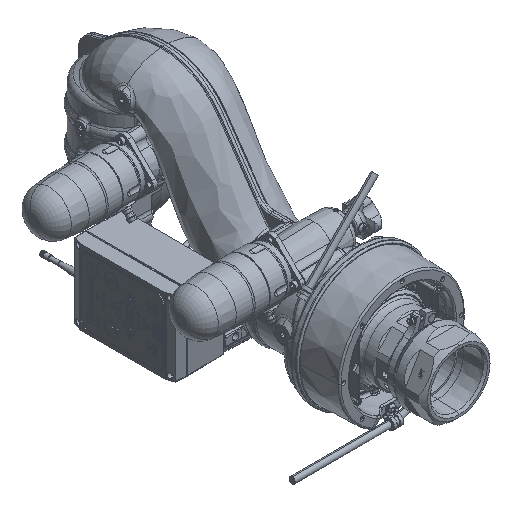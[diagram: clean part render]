
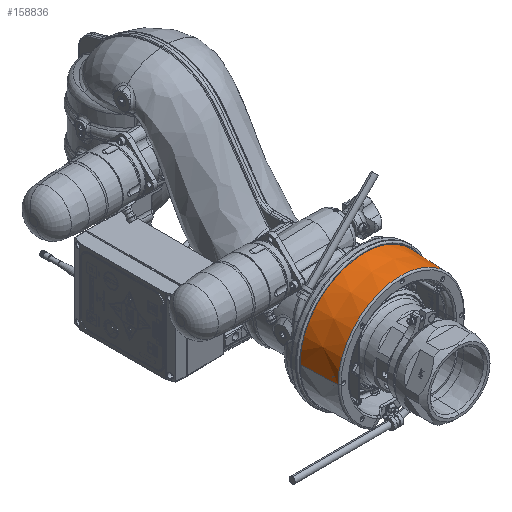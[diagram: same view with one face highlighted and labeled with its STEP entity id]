
A CAD part, isometric view. The second image highlights one B-rep face of the part: STEP entity #158836.
In plain terms, the highlighted conical face has half-angle 2 degrees and reference radius 98.641 mm.
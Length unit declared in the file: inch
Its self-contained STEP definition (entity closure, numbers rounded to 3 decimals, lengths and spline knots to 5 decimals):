
#2751 = ORIENTED_EDGE ( 'NONE', *, *, #130721, .T. ) ;
#8968 = CARTESIAN_POINT ( 'NONE',  ( 0., -7.22255, 0. ) ) ;
#24061 = VERTEX_POINT ( 'NONE', #77154 ) ;
#37660 = AXIS2_PLACEMENT_3D ( 'NONE', #161064, #127696, #193690 ) ;
#39140 = VERTEX_POINT ( 'NONE', #188289 ) ;
#41998 = ORIENTED_EDGE ( 'NONE', *, *, #161582, .T. ) ;
#48620 = LINE ( 'NONE', #72987, #173398 ) ;
#49453 = EDGE_LOOP ( 'NONE', ( #2751, #41998, #183282, #76340 ) ) ;
#70821 = VERTEX_POINT ( 'NONE', #201510 ) ;
#71768 = FACE_OUTER_BOUND ( 'NONE', #49453, .T. ) ;
#72987 = CARTESIAN_POINT ( 'NONE',  ( -3.88351, -7.22255, 0. ) ) ;
#73694 = DIRECTION ( 'NONE',  ( -0.035, 0.999, 0. ) ) ;
#76340 = ORIENTED_EDGE ( 'NONE', *, *, #127626, .F. ) ;
#77154 = CARTESIAN_POINT ( 'NONE',  ( 3.88667, -7.13207, 0. ) ) ;
#78825 = VERTEX_POINT ( 'NONE', #203673 ) ;
#92474 = DIRECTION ( 'NONE',  ( -1., 0., 0. ) ) ;
#98383 = DIRECTION ( 'NONE',  ( 0.035, 0.999, 0. ) ) ;
#99694 = CARTESIAN_POINT ( 'NONE',  ( 0., -7.13207, 0. ) ) ;
#103103 = AXIS2_PLACEMENT_3D ( 'NONE', #8968, #156397, #92474 ) ;
#107963 = CONICAL_SURFACE ( 'NONE', #103103, 3.88351, 0.035 ) ;
#112905 = CARTESIAN_POINT ( 'NONE',  ( 3.88351, -7.22255, 0. ) ) ;
#120514 = CIRCLE ( 'NONE', #37660, 3.96627 ) ;
#127626 = EDGE_CURVE ( 'NONE', #78825, #39140, #48620, .T. ) ;
#127696 = DIRECTION ( 'NONE',  ( 0., 1., 0. ) ) ;
#130721 = EDGE_CURVE ( 'NONE', #78825, #24061, #173006, .T. ) ;
#156397 = DIRECTION ( 'NONE',  ( 0., 1., 0. ) ) ;
#158836 = ADVANCED_FACE ( 'NONE', ( #71768 ), #107963, .T. ) ;
#161064 = CARTESIAN_POINT ( 'NONE',  ( 0., -4.85255, 0. ) ) ;
#161582 = EDGE_CURVE ( 'NONE', #24061, #70821, #194343, .T. ) ;
#173006 = CIRCLE ( 'NONE', #213835, 3.88667 ) ;
#173398 = VECTOR ( 'NONE', #73694, 39.37008 ) ;
#183282 = ORIENTED_EDGE ( 'NONE', *, *, #198966, .F. ) ;
#186608 = VECTOR ( 'NONE', #98383, 39.37008 ) ;
#188289 = CARTESIAN_POINT ( 'NONE',  ( -3.96627, -4.85255, 0. ) ) ;
#193690 = DIRECTION ( 'NONE',  ( -1., 0., 0. ) ) ;
#194343 = LINE ( 'NONE', #112905, #186608 ) ;
#198966 = EDGE_CURVE ( 'NONE', #39140, #70821, #120514, .T. ) ;
#201510 = CARTESIAN_POINT ( 'NONE',  ( 3.96627, -4.85255, 0. ) ) ;
#203673 = CARTESIAN_POINT ( 'NONE',  ( -3.88667, -7.13207, 0. ) ) ;
#213835 = AXIS2_PLACEMENT_3D ( 'NONE', #99694, #215177, #214455 ) ;
#214455 = DIRECTION ( 'NONE',  ( 1., 0., 0. ) ) ;
#215177 = DIRECTION ( 'NONE',  ( 0., 1., 0. ) ) ;
